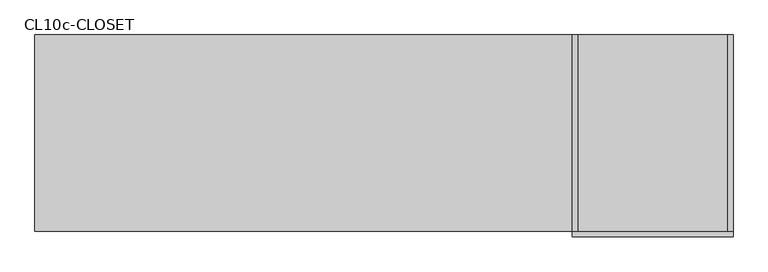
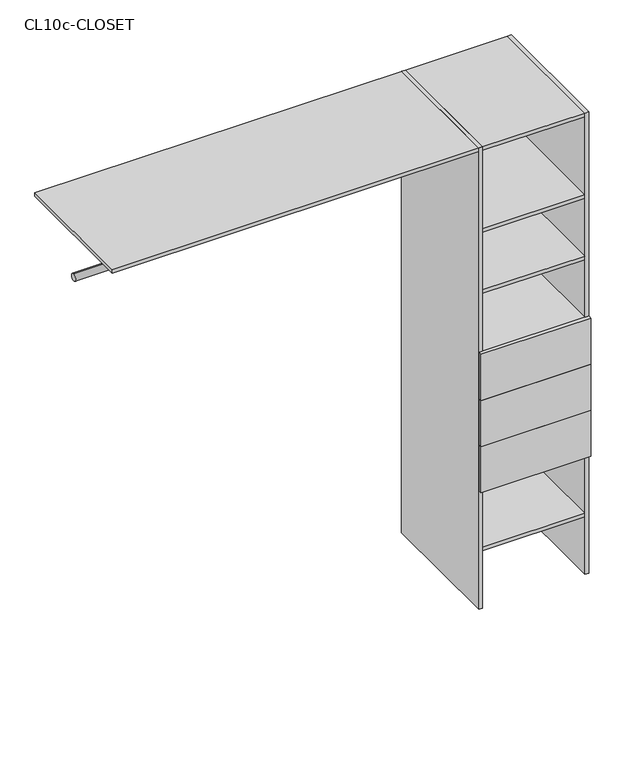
"""IFC4 building model written with IfcOpenShell, lengths in millimetres: furniture geometry, Closet 1estantes-1tubos_sin laterales : CL10c-CLOSET."""

from ifc_helpers import new_model, si_unit, point, frame, frame_2d, origin, origin_with_axes, place, context, project, spatial, polyline, circle_curve, trimmed, segment, composite_curve, outline, extrude, source, transform, mapped, element, save


def cl10c_closet_ebeeba07(model_context):
    return source(origin(), model_context, "Body", "SweptSolid", [
        extrude(outline(polyline([(225.0, 100.0), (210.0, 100.0), (210.0, 650.0), (225.0, 650.0), (225.0, 100.0)])), origin_with_axes(), (0.0, 0.0, 1.0), 2000.0),
        extrude(outline(polyline([(-210.0, 100.0), (-225.0, 100.0), (-225.0, 650.0), (-210.0, 650.0), (-210.0, 100.0)])), origin_with_axes(), (0.0, 0.0, 1.0), 2000.0),
        extrude(outline(polyline([(225.0, 100.0), (225.0, 85.0), (-225.0, 85.0), (-225.0, 100.0), (225.0, 100.0)])), frame((0.0, 0.0, 915.0), z_axis=(0.0, 0.0, 1.0), x_axis=(1.0, 0.0, 0.0)), (0.0, 0.0, 1.0), 200.0),
        extrude(outline(polyline([(225.0, 100.0), (225.0, 85.0), (-225.0, 85.0), (-225.0, 100.0), (225.0, 100.0)])), frame((0.0, 0.0, 715.0), z_axis=(0.0, 0.0, 1.0), x_axis=(1.0, 0.0, 0.0)), (0.0, 0.0, 1.0), 200.0),
        extrude(outline(polyline([(225.0, 100.0), (225.0, 85.0), (-225.0, 85.0), (-225.0, 100.0), (225.0, 100.0)])), frame((0.0, 0.0, 515.0), z_axis=(0.0, 0.0, 1.0), x_axis=(1.0, 0.0, 0.0)), (0.0, 0.0, 1.0), 200.0),
        extrude(outline(polyline([(210.0, 100.0), (-210.0, 100.0), (-210.0, 600.0), (210.0, 600.0), (210.0, 100.0)])), frame((0.0, 0.0, 1100.0), z_axis=(0.0, 0.0, 1.0), x_axis=(1.0, 0.0, 0.0)), (0.0, 0.0, 1.0), 15.0),
        extrude(outline(composite_curve([segment(trimmed(circle_curve(frame_2d((375.0, 1800.0)), 15.0), [point((375.0, 1815.0))], [point((375.0, 1785.0))], False, "CARTESIAN"), True, "CONTINUOUS"), segment(trimmed(circle_curve(frame_2d((375.0, 1800.0)), 15.0), [point((375.0, 1785.0))], [point((375.0, 1815.0))], False, "CARTESIAN"), True, "CONTINUOUS")], self_intersect=False)), frame((-1730.0, 0.0, 0.0), z_axis=(1.0, 0.0, 0.0), x_axis=(0.0, 1.0, 0.0)), (0.0, 0.0, 1.0), 1505.0),
        extrude(outline(composite_curve([segment(trimmed(circle_curve(frame_2d((375.0, 1800.0)), 15.0), [point((375.0, 1815.0))], [point((375.0, 1785.0))], False, "CARTESIAN"), True, "CONTINUOUS"), segment(trimmed(circle_curve(frame_2d((375.0, 1800.0)), 15.0), [point((375.0, 1785.0))], [point((375.0, 1815.0))], False, "CARTESIAN"), True, "CONTINUOUS")], self_intersect=False)), frame((-1730.0, 0.0, 0.0), z_axis=(1.0, 0.0, 0.0), x_axis=(0.0, 1.0, 0.0)), (0.0, 0.0, 1.0), 1505.0),
        extrude(outline(polyline([(210.0, 100.0), (-210.0, 100.0), (-210.0, 650.0), (210.0, 650.0), (210.0, 100.0)])), frame((0.0, 0.0, 250.0), z_axis=(0.0, 0.0, 1.0), x_axis=(1.0, 0.0, 0.0)), (0.0, 0.0, 1.0), 15.0),
        extrude(outline(polyline([(210.0, 100.0), (-210.0, 100.0), (-210.0, 650.0), (210.0, 650.0), (210.0, 100.0)])), frame((0.0, 0.0, 515.0), z_axis=(0.0, 0.0, 1.0), x_axis=(1.0, 0.0, 0.0)), (0.0, 0.0, 1.0), 15.0),
        extrude(outline(polyline([(210.0, 100.0), (-210.0, 100.0), (-210.0, 650.0), (210.0, 650.0), (210.0, 100.0)])), frame((0.0, 0.0, 1365.0), z_axis=(0.0, 0.0, 1.0), x_axis=(1.0, 0.0, 0.0)), (0.0, 0.0, 1.0), 15.0),
        extrude(outline(polyline([(210.0, 100.0), (-210.0, 100.0), (-210.0, 650.0), (210.0, 650.0), (210.0, 100.0)])), frame((0.0, 0.0, 1630.0), z_axis=(0.0, 0.0, 1.0), x_axis=(1.0, 0.0, 0.0)), (0.0, 0.0, 1.0), 15.0),
        extrude(outline(polyline([(-210.0, 100.0), (-1730.0, 100.0), (-1730.0, 650.0), (-210.0, 650.0), (-210.0, 100.0)])), frame((0.0, 0.0, 1985.0), z_axis=(0.0, 0.0, 1.0), x_axis=(1.0, 0.0, 0.0)), (0.0, 0.0, 1.0), 15.0),
        extrude(outline(polyline([(210.0, 100.0), (-210.0, 100.0), (-210.0, 650.0), (210.0, 650.0), (210.0, 100.0)])), frame((0.0, 0.0, 1985.0), z_axis=(0.0, 0.0, 1.0), x_axis=(1.0, 0.0, 0.0)), (0.0, 0.0, 1.0), 15.0),
    ])


if __name__ == "__main__":
    model = new_model("IFC4")
    model_context = context("Model", 3, world=origin())
    ifc_project = project(units=[si_unit("LENGTHUNIT", "METRE", prefix="MILLI")], contexts=[model_context])
    site = spatial("IfcSite", under=ifc_project)
    building = spatial("IfcBuilding", under=site)
    placement = place(None, origin())
    cl10c_closet_shape = cl10c_closet_ebeeba07(model_context)
    element("IfcFurniture", 1, ObjectType="Closet 1estantes-1tubos_sin laterales : CL10c-CLOSET", at=placement, inside=building, context=model_context, shape_type="MappedRepresentation", body=[
        mapped(cl10c_closet_shape, transform((0.0, 0.0, 0.0), x_axis=(1.0, 0.0, 0.0), y_axis=(0.0, 1.0, 0.0), z_axis=(0.0, 0.0, 1.0))),
    ])
    save(model, "model.ifc")
